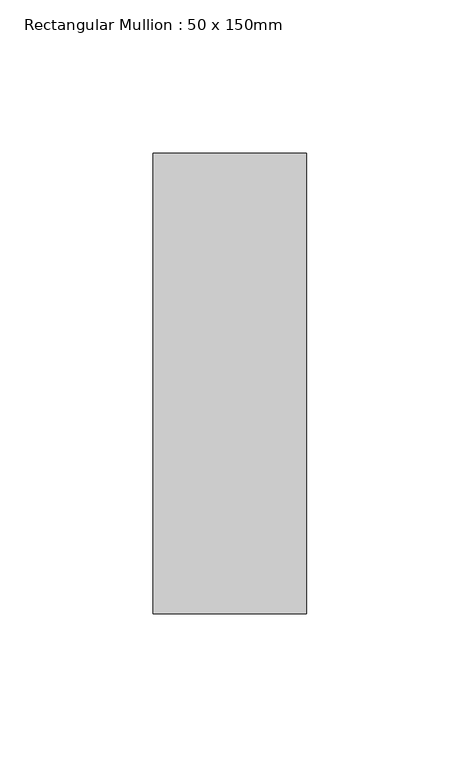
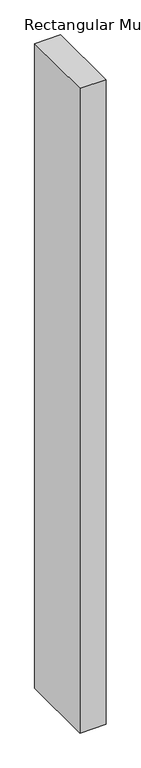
"""IFC4 building model written with IfcOpenShell, lengths in millimetres: member geometry, Rectangular Mullion : 50 x 150mm."""

import ifcopenshell
import ifcopenshell.guid

model = None  # the IFC model being written
_history = None  # IfcOwnerHistory: only IFC2X3 demands one
_inside = {}  # id of a spatial element -> (the spatial element, [elements in it])
_under = {}  # id of a project, library or spatial element -> (it, [spatial elements below it])
_declared = {}  # id of a project -> (the project, [libraries it declares])
_typed = {}  # id of a type object -> (the type object, [elements of that type])
_made_of = {}  # id of a material, layer set ... -> (it, [elements and type objects made of it])


def new_model(schema):
    """Start an empty IFC model of exactly this schema.

    Asked for "IFC4X3", IfcOpenShell would pick the latest addendum, in which some entities
    have other attributes; the version numbers below select the first issue.
    IFC2X3 requires an IfcOwnerHistory on every rooted entity: one is made here for all.
    """
    global model, _history
    if schema == "IFC4X3":
        model = ifcopenshell.file(schema_version=(4, 3, 0, 0))
    else:
        model = ifcopenshell.file(schema=schema)
    _inside.clear()
    _under.clear()
    _declared.clear()
    _typed.clear()
    _made_of.clear()
    _history = None
    if model.schema == "IFC2X3":
        org = make("IfcOrganization", Name="unknown")
        user = make(
            "IfcPersonAndOrganization",
            ThePerson=make("IfcPerson", FamilyName="unknown"),
            TheOrganization=org,
        )
        app = make(
            "IfcApplication",
            ApplicationDeveloper=org,
            Version="unknown",
            ApplicationFullName="unknown",
            ApplicationIdentifier="unknown",
        )
        _history = make(
            "IfcOwnerHistory",
            OwningUser=user,
            OwningApplication=app,
            ChangeAction="ADDED",
            CreationDate=0,
        )
    return model


def make(cls, **values):
    """One entity of the class cls with the attributes given. An attribute that is None is left unset."""
    return model.create_entity(
        cls, **{name: value for name, value in values.items() if value is not None}
    )


def rooted(cls, **values):
    """An entity with a GlobalId (a new one), such as an element, a storey or a relation."""
    return make(cls, GlobalId=ifcopenshell.guid.new(), OwnerHistory=_history, **values)


def si_unit(unit_type, name, prefix=None):
    """IfcSIUnit, for example si_unit("LENGTHUNIT", "METRE", prefix="MILLI")."""
    return make("IfcSIUnit", UnitType=unit_type, Prefix=prefix, Name=name)


def assignment(units):
    """IfcUnitAssignment: the units of a project."""
    return None if units is None else make("IfcUnitAssignment", Units=units)


def point(xyz):
    """IfcCartesianPoint."""
    return None if xyz is None else make("IfcCartesianPoint", Coordinates=xyz)


def direction(xyz):
    """IfcDirection."""
    return None if xyz is None else make("IfcDirection", DirectionRatios=xyz)


def frame(location, z_axis=None, x_axis=None):
    """IfcAxis2Placement3D, a coordinate frame: its origin and axes. An axis left out is left unset."""
    return make(
        "IfcAxis2Placement3D",
        Location=point(location),
        Axis=direction(z_axis),
        RefDirection=direction(x_axis),
    )


def origin():
    """The frame at (0, 0, 0) with its axes left unset."""
    return frame((0.0, 0.0, 0.0))


def place(relative_to, where):
    """IfcLocalPlacement: puts the frame where relative to a parent placement (None: the world)."""
    return make(
        "IfcLocalPlacement", PlacementRelTo=relative_to, RelativePlacement=where
    )


def context(
    kind, dimensions, precision=None, world=None, true_north=None, identifier=None
):
    """IfcGeometricRepresentationContext, for example the 3D "Model" context."""
    return make(
        "IfcGeometricRepresentationContext",
        ContextIdentifier=identifier,
        ContextType=kind,
        CoordinateSpaceDimension=dimensions,
        Precision=precision,
        WorldCoordinateSystem=world,
        TrueNorth=true_north,
    )


def project(units=None, contexts=None):
    """IfcProject with its units and contexts."""
    return rooted(
        "IfcProject",
        Name="project",
        RepresentationContexts=contexts,
        UnitsInContext=assignment(units),
    )


def spatial(cls, under=None, at=None, **own):
    """A site, building, storey or space (cls), placed at a placement, below another one or the project."""
    s = rooted(cls, ObjectPlacement=at, **own)
    if under is not None:
        _under.setdefault(under.id(), (under, []))[1].append(s)
    return s


def polyline(points):
    """IfcPolyline through the points."""
    return make("IfcPolyline", Points=[point(p) for p in points])


def outline(outer, holes=None, kind="AREA"):
    """IfcArbitraryClosedProfileDef: a profile drawn as a closed curve; with holes, ...WithVoids."""
    if holes is None:
        return make("IfcArbitraryClosedProfileDef", ProfileType=kind, OuterCurve=outer)
    return make(
        "IfcArbitraryProfileDefWithVoids",
        ProfileType=kind,
        OuterCurve=outer,
        InnerCurves=holes,
    )


def extrude(swept, where, along, depth):
    """IfcExtrudedAreaSolid: the profile swept, set in the frame where, extruded along a direction by depth."""
    return make(
        "IfcExtrudedAreaSolid",
        SweptArea=swept,
        Position=where,
        ExtrudedDirection=direction(along),
        Depth=depth,
    )


def shape(context_of_items, identifier, shape_type, items):
    """IfcShapeRepresentation: the items that make up one representation, for example the "Body"."""
    return make(
        "IfcShapeRepresentation",
        ContextOfItems=context_of_items,
        RepresentationIdentifier=identifier,
        RepresentationType=shape_type,
        Items=items,
    )


def source(mapping_origin, context_of_items, identifier, shape_type, items):
    """IfcRepresentationMap: a shape defined once, which mapped items show again and again."""
    return make(
        "IfcRepresentationMap",
        MappingOrigin=mapping_origin,
        MappedRepresentation=shape(context_of_items, identifier, shape_type, items),
    )


def transform(
    local_origin,
    x_axis=None,
    y_axis=None,
    z_axis=None,
    scale=None,
    scale2=None,
    scale3=None,
    uniform=True,
):
    """IfcCartesianTransformationOperator3D, or its non-uniform kind. x_axis, y_axis, z_axis: its Axis1, 2, 3."""
    if uniform:
        return make(
            "IfcCartesianTransformationOperator3D",
            Axis1=direction(x_axis),
            Axis2=direction(y_axis),
            LocalOrigin=point(local_origin),
            Scale=scale,
            Axis3=direction(z_axis),
        )
    return make(
        "IfcCartesianTransformationOperator3DnonUniform",
        Axis1=direction(x_axis),
        Axis2=direction(y_axis),
        LocalOrigin=point(local_origin),
        Scale=scale,
        Axis3=direction(z_axis),
        Scale2=scale2,
        Scale3=scale3,
    )


def mapped(mapping_source, mapping_target):
    """IfcMappedItem: shows the shape of a source again, moved by a transform."""
    return make(
        "IfcMappedItem", MappingSource=mapping_source, MappingTarget=mapping_target
    )


def made_of(thing, what):
    """Note that an element or type object is made of a material, layer set ...; save() writes the relation."""
    if what is not None:
        _made_of.setdefault(what.id(), (what, []))[1].append(thing)
    return thing


def element(
    cls,
    number,
    at=None,
    inside=None,
    cuts=None,
    type_object=None,
    material=None,
    context=None,
    identifier="Body",
    shape_type=None,
    held_by="IfcProductDefinitionShape",
    body=None,
    shapes=None,
    **own,
):
    """One element of the class cls, such as IfcWall. Its Tag is "e" and its number.

    at: its placement. inside: the storey or other place that contains it. cuts: it is an
    opening in that element (IfcRelVoidsElement). A single representation is given by context,
    identifier, shape_type and body (its items); several are given by shapes. held_by: the class
    of the entity that holds the representations. save() writes the other relations.
    """
    e = rooted(cls, Tag="e%d" % number, ObjectPlacement=at, **own)
    if body is not None:
        shapes = [shape(context, identifier, shape_type, body)]
    if shapes is not None:
        e.Representation = make(held_by, Representations=shapes)
    if inside is not None:
        _inside.setdefault(inside.id(), (inside, []))[1].append(e)
    if cuts is not None:
        rooted(
            "IfcRelVoidsElement", RelatingBuildingElement=cuts, RelatedOpeningElement=e
        )
    if type_object is not None:
        _typed.setdefault(type_object.id(), (type_object, []))[1].append(e)
    return made_of(e, material)


def aggregate(whole, parts):
    """IfcRelAggregates: a whole, such as a stair, and the parts it consists of."""
    return rooted("IfcRelAggregates", RelatingObject=whole, RelatedObjects=parts)


def save(model, path):
    """Write the relations noted so far, then the file.

    IfcRelAggregates (storeys below a building ...), IfcRelContainedInSpatialStructure (elements
    in a storey), IfcRelDefinesByType, IfcRelAssociatesMaterial and IfcRelDeclares: one each for
    every whole, place, type object, material and project.
    """
    for whole, parts in _under.values():
        aggregate(whole, parts)
    for where, things in _inside.values():
        rooted(
            "IfcRelContainedInSpatialStructure",
            RelatedElements=things,
            RelatingStructure=where,
        )
    for kind, things in _typed.values():
        rooted("IfcRelDefinesByType", RelatedObjects=things, RelatingType=kind)
    for what, things in _made_of.values():
        rooted("IfcRelAssociatesMaterial", RelatedObjects=things, RelatingMaterial=what)
    for by, libraries in _declared.values():
        rooted("IfcRelDeclares", RelatingContext=by, RelatedDefinitions=libraries)
    model.write(path)


def rectangular_mullion_50_x_150mm_81f490af(model_context):
    return source(origin(), model_context, "Body", "SweptSolid", [
        extrude(outline(polyline([(0.0, 75.0), (0.0, -75.0), (-50.0, -75.0), (-50.0, 75.0), (0.0, 75.0)])), frame((0.0, 0.0, -1306.624813), z_axis=(0.0, 0.0, 1.0), x_axis=(1.0, 0.0, 0.0)), (0.0, 0.0, 1.0), 1306.624813),
    ])


if __name__ == "__main__":
    model = new_model("IFC4")
    model_context = context("Model", 3, world=origin())
    ifc_project = project(units=[si_unit("LENGTHUNIT", "METRE", prefix="MILLI")], contexts=[model_context])
    site = spatial("IfcSite", under=ifc_project)
    building = spatial("IfcBuilding", under=site)
    placement = place(None, origin())
    rectangular_mullion_50_x_150mm_shape = rectangular_mullion_50_x_150mm_81f490af(model_context)
    element("IfcMember", 1, ObjectType="Rectangular Mullion : 50 x 150mm", at=placement, inside=building, context=model_context, shape_type="MappedRepresentation", body=[
        mapped(rectangular_mullion_50_x_150mm_shape, transform((0.0, 0.0, 0.0), x_axis=(1.0, 0.0, 0.0), y_axis=(0.0, 1.0, 0.0), z_axis=(0.0, 0.0, 1.0))),
    ])
    save(model, "model.ifc")
